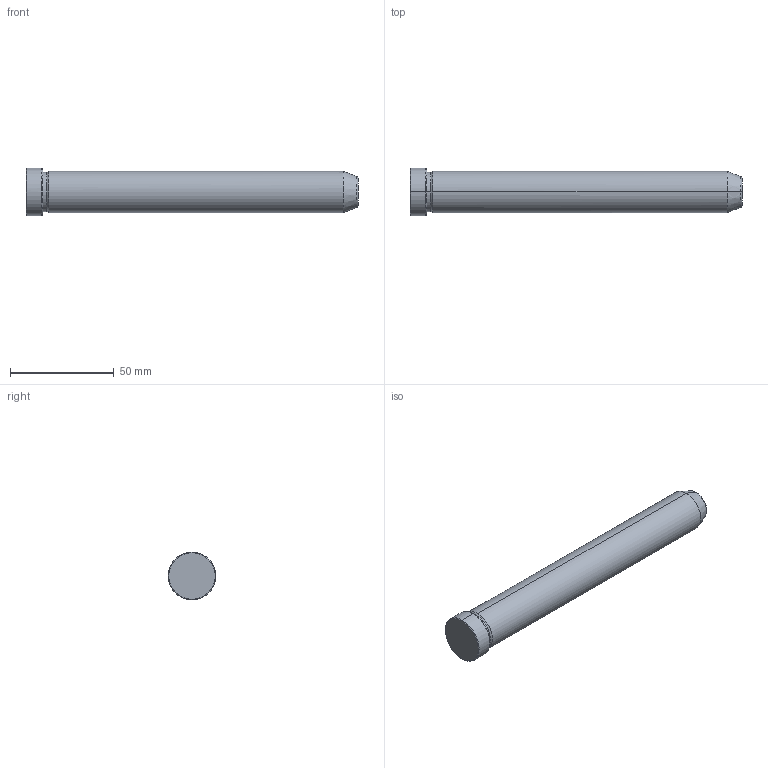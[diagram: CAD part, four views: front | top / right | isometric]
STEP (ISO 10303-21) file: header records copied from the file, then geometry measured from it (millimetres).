
FILE_DESCRIPTION(('CATIA V5 STEP Exchange'),'2;1');
FILE_NAME('C:\Users\Utente\Desktop\IO LAVORO\3D X SITO CF\X SITO\PLASTICA\549\549-20X160.stp','2021-12-11T09:51:54+00:00',('none'),('none'),'CATIA Version 5 Release 20 GA (IN-10)','CATIA V5 STEP AP203','none');
FILE_SCHEMA(('CONFIG_CONTROL_DESIGN'));
Length unit declared in the file: millimetre
Products named in the file (1): 549-20X160
Bounding box: 160 x 23 x 23 mm (x, y, z)
Volume: 50428 mm3; surface area: 10772.4 mm2
Topology: 1 solids, 1 shells, 19 faces, 56 edges, 40 vertices
Faces by surface type: cone 8, cylinder 6, plane 3, torus 2
Entity records: 736 total; most frequent: CARTESIAN_POINT 192, ORIENTED_EDGE 112, DIRECTION 86, EDGE_CURVE 56, AXIS2_PLACEMENT_3D 54, VERTEX_POINT 40, CIRCLE 34, EDGE_LOOP 20
